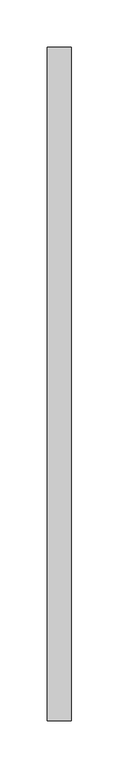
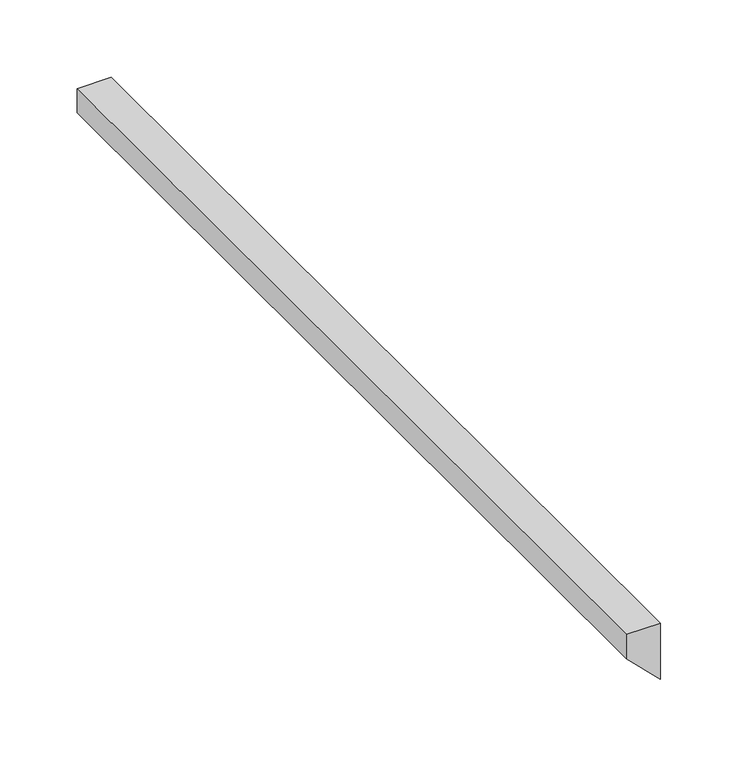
"""IFC4 building model written with IfcOpenShell, lengths in millimetres: proxy geometry, CAMBRIDGE^TABLE 2_4884 Rect-CORNER STILE 7."""

from ifc_helpers import new_model, si_unit, frame, origin, place, context, project, spatial, polyline, outline, extrude, source, transform, mapped, element, save


def generic_models_d2158d0b(model_context):
    return source(origin(), model_context, "Body", "SweptSolid", [
        extrude(outline(polyline([(-812.8, 1524.0), (-768.35, 1524.0), (-768.35, 1498.6), (-787.4, 1498.6), (-812.8, 1524.0)])), frame((0.0, -711.2, 0.0), z_axis=(0.0, 1.0, 0.0), x_axis=(0.0, 0.0, 1.0)), (0.0, 0.0, 1.0), 711.2),
    ])


if __name__ == "__main__":
    model = new_model("IFC4")
    model_context = context("Model", 3, world=origin())
    ifc_project = project(units=[si_unit("LENGTHUNIT", "METRE", prefix="MILLI")], contexts=[model_context])
    site = spatial("IfcSite", under=ifc_project)
    building = spatial("IfcBuilding", under=site)
    placement = place(None, origin())
    generic_models_shape = generic_models_d2158d0b(model_context)
    element("IfcBuildingElementProxy", 1, Name="CAMBRIDGE^TABLE 2_4884 Rect-CORNER STILE 7", ObjectType="CAMBRIDGE^TABLE 2_4884 Rect-CORNER STILE 7", at=placement, inside=building, context=model_context, shape_type="MappedRepresentation", body=[
        mapped(generic_models_shape, transform((0.0, 0.0, 0.0), x_axis=(1.0, 0.0, 0.0), y_axis=(0.0, 1.0, 0.0), z_axis=(0.0, 0.0, 1.0))),
    ])
    save(model, "model.ifc")
